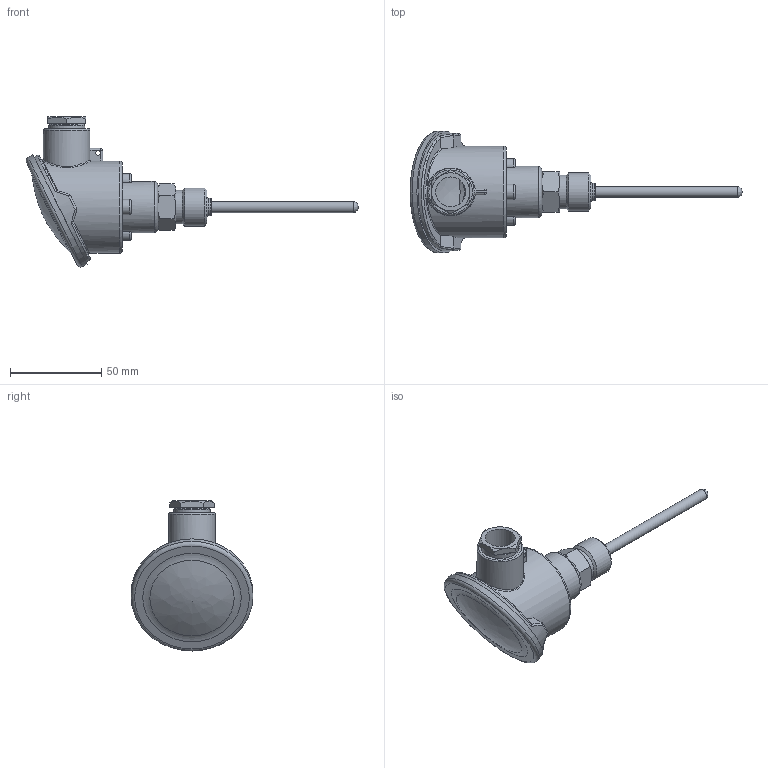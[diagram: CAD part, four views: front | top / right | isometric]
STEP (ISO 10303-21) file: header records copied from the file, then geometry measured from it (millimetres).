
FILE_DESCRIPTION( ( 'Unknown' ), '1' );
FILE_NAME( 'F:/U_Proces/dokumentation new/Mechanical parts/7000 3D Step filer/7000-/7000202/TCR6-1720.0001.2012.0510.0100.stp', 'Unknown', ( 'Unknown' ), ( 'Unknown' ), 'PSStep 13.0', 'Unknown', ' ' );
FILE_SCHEMA( ( 'AUTOMOTIVE_DESIGN { 1 0 10303 214 1 1 1 1 }' ) );
Length unit declared in the file: millimetre
Products named in the file (1): 2100115
Bounding box: 182.35 x 67 x 82.39 mm (x, y, z)
Surface area: 36370.2 mm2 (no closed solid volume)
Topology: 0 solids, 141 shells, 141 faces, 604 edges, 554 vertices
Faces by surface type: plane 55, cylinder 33, torus 17, bspline 17, cone 13, sphere 4, revolution 2
Full cylindrical faces by diameter (mm): 2.5 x1, 4 x1, 6 x2, 8 x1, 8.1 x1, 9 x1, 9.6 x1, 11.2 x1, 13.1 x1, 13.16 x1, 15.5 x1, 16.4 x1, 18.5 x1, 20 x1, 20.96 x1, 21 x1, 25.5 x1, 28.2 x1, 47 x1, 50 x1, 50.5 x1, 64.5 x1, 67 x1
Entity records: 9473 total; most frequent: CARTESIAN_POINT 4239, DIRECTION 840, ORIENTED_EDGE 528, EDGE_CURVE 528, VERTEX_POINT 528, AXIS2_PLACEMENT_3D 369, CIRCLE 238, FACE_BOUND 210
